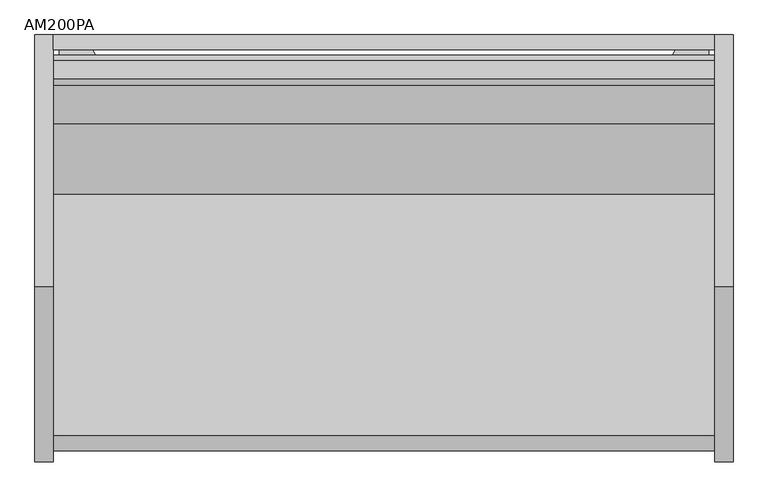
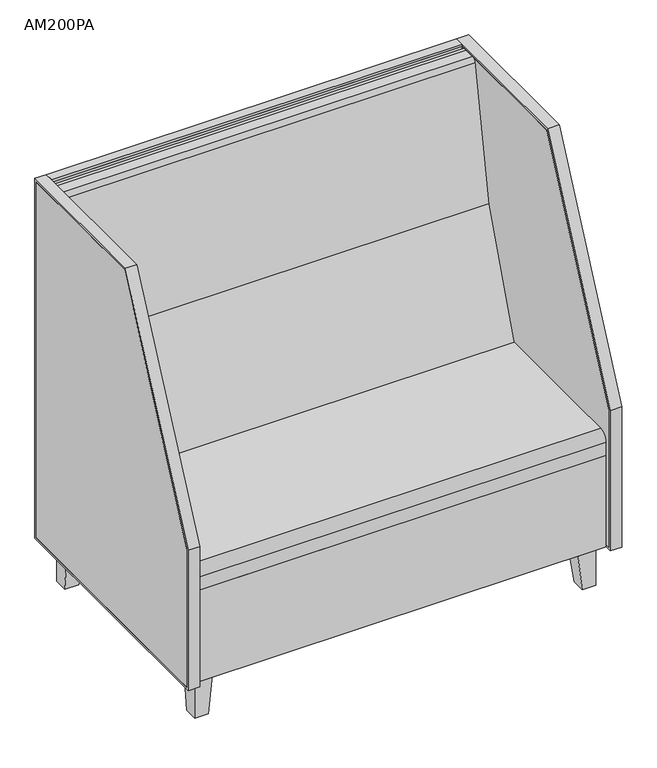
"""IFC4 building model written with IfcOpenShell, lengths in millimetres: furniture geometry, Stance_HC-Attesa-Privacy_Seat : AM200PA."""

from ifc_helpers import new_model, si_unit, point, frame, frame_2d, origin, place, context, project, spatial, polyline, circle_curve, trimmed, segment, composite_curve, outline, extrude, faceted_brep, source, transform, mapped, element, save


def am200pa_4a72f240(model_context):
    return source(origin(), model_context, "Body", "SolidModel", [
        extrude(outline(composite_curve([segment(polyline([(1152.525, -630.2294046), (1152.525, -687.3812057), (1095.3749955, -687.3812057), (1071.367921, -635.8978685)]), True, "CONTINUOUS"), segment(trimmed(circle_curve(frame_2d((1091.6058069, -626.4607874)), 22.3300363), [point((1071.367921, -635.8978685))], [point((1101.042888, -606.2229016))], False, "CARTESIAN"), True, "CONTINUOUS"), segment(polyline([(1101.042888, -606.2229016), (1152.525, -630.2294046)]), True, "CONTINUOUS")], self_intersect=False)), frame((0.0, 0.0, 120.5229941), z_axis=(0.0, 0.0, 1.0), x_axis=(1.0, 0.0, 0.0)), (0.0, 0.0, 1.0), 6.350003),
        faceted_brep([(1098.5531717, -684.2030249, 120.5229941), (1149.3561618, -684.2030249, 120.5229941), (1149.3561618, -633.4060188, 120.5229941), (1098.5531717, -633.4060188, 120.5229941), (1111.2405514, -684.2030249, 0.0), (1111.2405514, -646.0919041, 0.0), (1149.3561618, -646.0919041, 0.0), (1149.3561618, -684.2030249, 0.0)], [[[0, 1, 2, 3]], [[4, 5, 6, 7]], [[7, 1, 0, 4]], [[6, 2, 1, 7]], [[5, 3, 2, 6]], [[4, 0, 3, 5]]]),
        extrude(outline(composite_curve([segment(polyline([(1152.525, -80.9643011), (1101.042888, -104.9708042)]), True, "CONTINUOUS"), segment(trimmed(circle_curve(frame_2d((1091.6058069, -84.7329184)), 22.3300363), [point((1101.042888, -104.9708042))], [point((1071.367921, -75.2958372))], False, "CARTESIAN"), True, "CONTINUOUS"), segment(polyline([(1071.367921, -75.2958372), (1095.3749955, -23.8125), (1152.525, -23.8125), (1152.525, -80.9643011)]), True, "CONTINUOUS")], self_intersect=False)), frame((0.0, 0.0, 120.5229941), z_axis=(0.0, 0.0, 1.0), x_axis=(1.0, 0.0, 0.0)), (0.0, 0.0, 1.0), 6.350003),
        faceted_brep([(1098.5531717, -26.9906808, 120.5229941), (1098.5531717, -77.787687, 120.5229941), (1149.3561618, -77.787687, 120.5229941), (1149.3561618, -26.9906808, 120.5229941), (1111.2405514, -26.9906808, 0.0), (1149.3561618, -26.9906808, 0.0), (1149.3561618, -65.1018016, 0.0), (1111.2405514, -65.1018016, 0.0)], [[[0, 1, 2, 3]], [[4, 5, 6, 7]], [[4, 0, 3, 5]], [[5, 3, 2, 6]], [[6, 2, 1, 7]], [[7, 1, 0, 4]]]),
        extrude(outline(composite_curve([segment(polyline([(41.275, -630.2294046), (92.757112, -606.2229016)]), True, "CONTINUOUS"), segment(trimmed(circle_curve(frame_2d((102.1941931, -626.4607874)), 22.3300363), [point((92.757112, -606.2229016))], [point((122.432079, -635.8978685))], False, "CARTESIAN"), True, "CONTINUOUS"), segment(polyline([(122.432079, -635.8978685), (98.4250045, -687.3812057), (41.275, -687.3812057), (41.275, -630.2294046)]), True, "CONTINUOUS")], self_intersect=False)), frame((0.0, 0.0, 120.5229941), z_axis=(0.0, 0.0, 1.0), x_axis=(1.0, 0.0, 0.0)), (0.0, 0.0, 1.0), 6.350003),
        faceted_brep([(95.2468283, -684.2030249, 120.5229941), (95.2468283, -633.4060188, 120.5229941), (44.4438382, -633.4060188, 120.5229941), (44.4438382, -684.2030249, 120.5229941), (82.5594486, -684.2030249, 0.0), (44.4438382, -684.2030249, 0.0), (44.4438382, -646.0919041, 0.0), (82.5594486, -646.0919041, 0.0)], [[[0, 1, 2, 3]], [[4, 5, 6, 7]], [[5, 4, 0, 3]], [[6, 5, 3, 2]], [[7, 6, 2, 1]], [[4, 7, 1, 0]]]),
        extrude(outline(composite_curve([segment(polyline([(41.275, -80.9643011), (41.275, -23.8125), (98.4250045, -23.8125), (122.432079, -75.2958372)]), True, "CONTINUOUS"), segment(trimmed(circle_curve(frame_2d((102.1941931, -84.7329184)), 22.3300363), [point((122.432079, -75.2958372))], [point((92.757112, -104.9708042))], False, "CARTESIAN"), True, "CONTINUOUS"), segment(polyline([(92.757112, -104.9708042), (41.275, -80.9643011)]), True, "CONTINUOUS")], self_intersect=False)), frame((0.0, 0.0, 120.5229941), z_axis=(0.0, 0.0, 1.0), x_axis=(1.0, 0.0, 0.0)), (0.0, 0.0, 1.0), 6.350003),
        faceted_brep([(95.2468283, -26.9906808, 120.5229941), (44.4438382, -26.9906808, 120.5229941), (44.4438382, -77.787687, 120.5229941), (95.2468283, -77.787687, 120.5229941), (82.5594486, -26.9906808, 0.0), (82.5594486, -65.1018016, 0.0), (44.4438382, -65.1018016, 0.0), (44.4438382, -26.9906808, 0.0)], [[[0, 1, 2, 3]], [[4, 5, 6, 7]], [[4, 7, 1, 0]], [[7, 6, 2, 1]], [[6, 5, 3, 2]], [[5, 4, 0, 3]]]),
        extrude(outline(polyline([(-427.7946328, 1165.0979727), (-6.3500002, 1165.0979727), (-6.3500002, 130.0480003), (-723.8999756, 130.0480003), (-723.8999756, 530.0980231), (-427.7946328, 1165.0979727)])), frame((1162.0499758, 0.0, 0.0), z_axis=(1.0, 0.0, 0.0), x_axis=(0.0, 1.0, 0.0)), (0.0, 0.0, 1.0), 15.8750242),
        extrude(outline(polyline([(-6.3500002, 1165.0979727), (-6.3500002, 130.0480003), (-723.8999756, 130.0480003), (-723.8999756, 530.0980231), (-427.7946328, 1165.0979727), (-6.3500002, 1165.0979727)])), frame((1177.925, 0.0, 0.0), z_axis=(1.0, 0.0, 0.0), x_axis=(0.0, 1.0, 0.0)), (0.0, 0.0, 1.0), 15.875),
        extrude(outline(polyline([(-427.7946328, 1165.0979727), (-6.3500002, 1165.0979727), (-6.3500002, 130.0480003), (-723.8999756, 130.0480003), (-723.8999756, 530.0980231), (-427.7946328, 1165.0979727)])), frame((15.875, 0.0, 0.0), z_axis=(1.0, 0.0, 0.0), x_axis=(0.0, 1.0, 0.0)), (0.0, 0.0, 1.0), 15.8749992),
        extrude(outline(polyline([(-6.3500002, 1165.0979727), (-6.3500002, 130.0480003), (-723.8999756, 130.0480003), (-723.8999756, 530.0980231), (-427.7946328, 1165.0979727), (-6.3500002, 1165.0979727)])), frame((0.0, 0.0, 0.0), z_axis=(1.0, 0.0, 0.0), x_axis=(0.0, 1.0, 0.0)), (0.0, 0.0, 1.0), 15.875),
        extrude(outline(polyline([(-730.2499758, 531.5057842), (-431.840029, 1171.4479729), (0.0, 1171.4479729), (0.0, 123.6980001), (-730.2499758, 123.6980001), (-730.2499758, 531.5057842)]), holes=[polyline([(-6.3500002, 130.0480003), (-6.3500002, 1165.0979727), (-427.7946328, 1165.0979727), (-723.8999756, 530.0980231), (-723.8999756, 130.0480003), (-6.3500002, 130.0480003)])]), frame((1162.0500008, 0.0, 0.0), z_axis=(1.0, 0.0, 0.0), x_axis=(0.0, 1.0, 0.0)), (0.0, 0.0, 1.0), 31.7499992),
        extrude(outline(polyline([(1162.0499758, 0.0), (1162.0499758, -25.4000008), (31.7499992, -25.4000008), (31.7499992, 0.0), (1162.0499758, 0.0)])), frame((0.0, 0.0, 1165.0979971), z_axis=(0.0, 0.0, 1.0), x_axis=(1.0, 0.0, 0.0)), (0.0, 0.0, 1.0), 6.3499758),
        extrude(outline(polyline([(-730.2499758, 531.5057842), (-431.840029, 1171.4479729), (0.0, 1171.4479729), (0.0, 123.6980001), (-730.2499758, 123.6980001), (-730.2499758, 531.5057842)]), holes=[polyline([(-6.3500002, 130.0480003), (-6.3500002, 1165.0979727), (-427.7946328, 1165.0979727), (-723.8999756, 530.0980231), (-723.8999756, 130.0480003), (-6.3500002, 130.0480003)])]), frame((0.0, 0.0, 0.0), z_axis=(1.0, 0.0, 0.0), x_axis=(0.0, 1.0, 0.0)), (0.0, 0.0, 1.0), 31.7499992),
        extrude(outline(composite_curve([segment(polyline([(-44.4499985, 784.0979971), (-69.8499985, 784.0979971), (-177.1384812, 453.8980001), (-272.6682228, 453.8980001), (-152.4852237, 784.0979971), (-87.0717917, 1154.6060175)]), True, "CONTINUOUS"), segment(trimmed(circle_curve(frame_2d((-74.5652119, 1152.3979727)), 12.7), [point((-87.0717917, 1154.6060175))], [point((-74.5652119, 1165.0979727))], False, "CARTESIAN"), True, "CONTINUOUS"), segment(polyline([(-74.5652119, 1165.0979727), (-44.4499985, 1165.0979727), (-44.4499985, 784.0979971)]), True, "CONTINUOUS")], self_intersect=False)), frame((31.7499992, 0.0, 0.0), z_axis=(1.0, 0.0, 0.0), x_axis=(0.0, 1.0, 0.0)), (0.0, 0.0, 1.0), 1130.2999765),
        extrude(outline(composite_curve([segment(polyline([(-120.1420005, 453.8980001), (-120.1420005, 390.3980092), (-711.4865038, 390.3980092), (-711.4865038, 428.4980001)]), True, "CONTINUOUS"), segment(trimmed(circle_curve(frame_2d((-686.0865038, 428.4980001)), 25.4), [point((-711.4865038, 428.4980001))], [point((-686.0865038, 453.8980001))], False, "CARTESIAN"), True, "CONTINUOUS"), segment(polyline([(-686.0865038, 453.8980001), (-120.1420005, 453.8980001)]), True, "CONTINUOUS")], self_intersect=False)), frame((31.7499992, 0.0, 0.0), z_axis=(1.0, 0.0, 0.0), x_axis=(0.0, 1.0, 0.0)), (0.0, 0.0, 1.0), 1130.2999765),
        extrude(outline(polyline([(31.7499992, -700.7708788), (31.7499992, -120.1420005), (1162.0499758, -120.1420005), (1162.0499758, -700.7708788), (31.7499992, -700.7708788)])), frame((0.0, 0.0, 123.6980001), z_axis=(0.0, 0.0, 1.0), x_axis=(1.0, 0.0, 0.0)), (0.0, 0.0, 1.0), 266.7000091),
        extrude(outline(polyline([(31.7499992, -711.4865038), (31.7499992, -701.1677538), (1162.0499758, -701.1677538), (1162.0499758, -711.4865038), (31.7499992, -711.4865038)])), frame((0.0, 0.0, 123.6980001), z_axis=(0.0, 0.0, 1.0), x_axis=(1.0, 0.0, 0.0)), (0.0, 0.0, 1.0), 266.7000091),
        extrude(outline(polyline([(31.7499992, -44.4499985), (31.7499992, -34.91948), (1162.0499758, -34.91948), (1162.0499758, -44.4499985), (31.7499992, -44.4499985)])), frame((0.0, 0.0, 784.0979971), z_axis=(0.0, 0.0, 1.0), x_axis=(1.0, 0.0, 0.0)), (0.0, 0.0, 1.0), 380.9999756),
        extrude(outline(polyline([(31.7499992, -25.4000008), (31.7499992, 0.0), (1162.0499758, 0.0), (1162.0499758, -25.4000008), (31.7499992, -25.4000008)])), frame((0.0, 0.0, 123.6980001), z_axis=(0.0, 0.0, 1.0), x_axis=(1.0, 0.0, 0.0)), (0.0, 0.0, 1.0), 1041.399997),
    ])


if __name__ == "__main__":
    model = new_model("IFC4")
    model_context = context("Model", 3, world=origin())
    ifc_project = project(units=[si_unit("LENGTHUNIT", "METRE", prefix="MILLI")], contexts=[model_context])
    site = spatial("IfcSite", under=ifc_project)
    building = spatial("IfcBuilding", under=site)
    placement = place(None, origin())
    am200pa_shape = am200pa_4a72f240(model_context)
    element("IfcFurniture", 1, ObjectType="Stance_HC-Attesa-Privacy_Seat : AM200PA", at=placement, inside=building, context=model_context, shape_type="MappedRepresentation", body=[
        mapped(am200pa_shape, transform((0.0, 0.0, 0.0), x_axis=(1.0, 0.0, 0.0), y_axis=(0.0, 1.0, 0.0), z_axis=(0.0, 0.0, 1.0))),
    ])
    save(model, "model.ifc")
